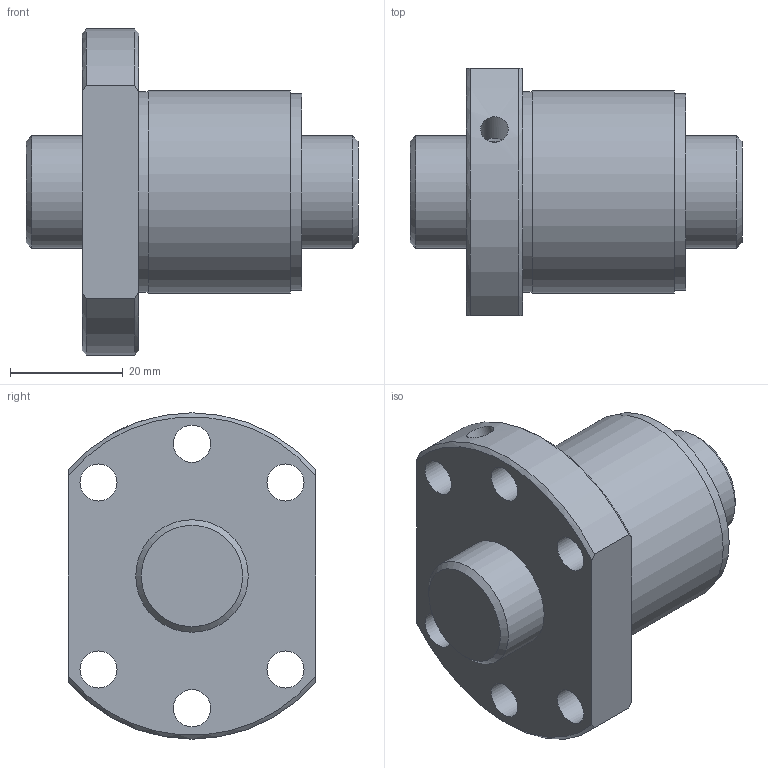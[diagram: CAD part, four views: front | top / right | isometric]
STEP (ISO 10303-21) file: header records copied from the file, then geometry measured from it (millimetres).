
FILE_DESCRIPTION(/* description */ ('STEP AP203'),/* implementation_level */ '2;1');
FILE_NAME(/* name */ 'SDA2010V-3G0+59LC0(0G000)',/* time_stamp */ '2024-05-28T11:30:02+02:00',/* author */ ('License CC BY-ND 4.0'),/* organization */ ('CADENAS'),/* preprocessor_version */ 'ST-DEVELOPER v19.3',/* originating_system */ 'PARTsolutions',/* authorisation */ ' ');
FILE_SCHEMA (('CONFIG_CONTROL_DESIGN'));
Length unit declared in the file: millimetre
Products named in the file (3): SDA2010V-3G0+59LC0(0G000); 000SDA2010V-30Shaft; SDA-V serieSDA2010V-3nut
Assembly tree (2 placements, depth 2):
  SDA2010V-3G0+59LC0(0G000)
    000SDA2010V-30Shaft
    SDA-V serieSDA2010V-3nut
Bounding box: 59 x 44 x 58 mm (x, y, z)
Volume: 55989.8 mm3; surface area: 16699.7 mm2
Topology: 2 solids, 2 shells, 31 faces, 74 edges, 50 vertices
Faces by surface type: cylinder 15, plane 9, cone 7
Full cylindrical faces by diameter (mm): 3.9 x1, 4.917 x1, 6.6 x6, 20 x2, 35 x1, 35.6 x1, 36 x1
Entity records: 915 total; most frequent: CARTESIAN_POINT 174, DIRECTION 144, ORIENTED_EDGE 104, AXIS2_PLACEMENT_3D 68, EDGE_LOOP 66, FACE_BOUND 66, EDGE_CURVE 52, VERTEX_POINT 44
